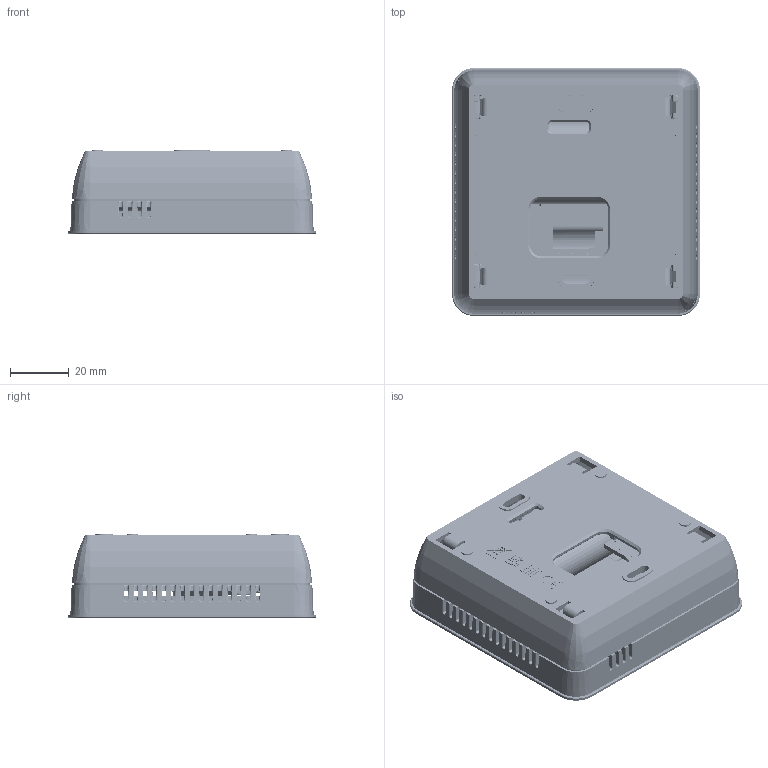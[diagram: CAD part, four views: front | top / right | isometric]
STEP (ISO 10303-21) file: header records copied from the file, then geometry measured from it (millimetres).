
FILE_DESCRIPTION(/* description */ (''),/* implementation_level */ '2;1');
FILE_NAME(/* name */ 'T3.1.step',/* time_stamp */ '2025-12-08T07:30:29+01:00',/* author */ (''),/* organization */ (''),/* preprocessor_version */ 'ST-DEVELOPER v20.1',/* originating_system */ 'Autodesk Translation Framework v14.21.0.0',/* authorisation */ '');
FILE_SCHEMA (('AUTOMOTIVE_DESIGN { 1 0 10303 214 3 1 1 }'));
Length unit declared in the file: millimetre
Products named in the file (57): T3.2; ST-1003_2_1_R_5mm; Board; Packages; DG332K; ANGLE-SW1-16_1; FIDUCIAL_G10; BLASZKA_LEŻĄCA_+_CUTED; BLASZKA_LEŻĄCA_-_CUTED; ULO-TB51-127/5.0-02P-4100A_STANDARD; PCB_INFO_100MM; G6C-2117P; 2X04_THT_2.00_H6.35; T3.2_1; OP-1004-A; OP-1004-B; SZKŁO; S_023.05.000.00057; Op-1004-C; S_023.05.000.00002; Podwujne AA (KEYS5212); AA Batterie; ST-1003_2_2_H; Board_1; Packages_1; NINIGI_1T1206; JP10376-01_1; ENS210_PASTE; SOT95P270X145-6N; DLJ3015; SMD_T7; CAP_TYPE_AK; FIDUCIAL_G10_1; SOD80C; ANGLE-SW1-16_1_1; SO8; 2X04_2MM_SMD; 2X02; NTC-10_1; L0805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
Assembly tree (136 placements, depth 4):
  T3.2
    ST-1003_2_1_R_5mm
      Board
      Packages
        DG332K
        ANGLE-SW1-16_1  x4
        FIDUCIAL_G10  x4
        BLASZKA_LEŻĄCA_+_CUTED
        BLASZKA_LEŻĄCA_-_CUTED
        ULO-TB51-127/5.0-02P-4100A_STANDARD
        PCB_INFO_100MM
        G6C-2117P
        2X04_THT_2.00_H6.35
    T3.2_1
      OP-1004-A
      OP-1004-B
      SZKŁO
      S_023.05.000.00057  x4
      Op-1004-C
      S_023.05.000.00002  x3
    Podwujne AA (KEYS5212)
    AA Batterie  x2
    ST-1003_2_2_H
      Board_1
      Packages_1
        NINIGI_1T1206
        JP10376-01_1
        ENS210_PASTE
        SOT95P270X145-6N
        DLJ3015
        SMD_T7  x2
        CAP_TYPE_AK
        FIDUCIAL_G10_1  x2
        SOD80C
        ANGLE-SW1-16_1_1  x2
        SO8
        2X04_2MM_SMD
        2X02
        NTC-10_1
        L0805
        C0805  x3
        C1206  x3
        153CLV-0605  x2
        C0603
        C0805 (1)  x21
        R0805  x34
        RFM22B_S1
        TQFP100_2
        SOT23  x4
        SOT23-BEC  x2
        MICRO3
        1,6/0,6  x4
        5-2,5
    wer
      DG332J-5.0-03P-00A
      DG332K-5.0-03P-00A
    etykiety
Bounding box: 84.58 x 84.58 x 28.71 mm (x, y, z)
Volume: 84339.4 mm3; surface area: 116414.6 mm2
Topology: 160 solids, 160 shells, 8657 faces, 23379 edges, 15238 vertices
Faces by surface type: plane 5746, cylinder 1476, bspline 945, cone 270, torus 172, sphere 48
Full cylindrical faces by diameter (mm): 0.24 x1, 0.5 x408, 0.527 x1, 0.6 x10, 0.8 x8, 0.9 x32, 1.118 x6, 1.3 x14, 1.4 x2, 1.5 x10, 1.57 x2, 1.6 x3, 1.692 x1, 2.17 x7, 2.2 x33, 2.4 x3, 2.49 x2, 2.5 x6, 2.7 x3, 3.5 x2, 3.7 x2, 3.8 x4, 3.9 x3, 5 x2, 9 x4, 14 x2
Entity records: 298304 total; most frequent: CARTESIAN_POINT 91241, ORIENTED_EDGE 44156, DIRECTION 38860, EDGE_CURVE 22078, LINE 16454, VECTOR 16454, VERTEX_POINT 14391, AXIS2_PLACEMENT_3D 11203
